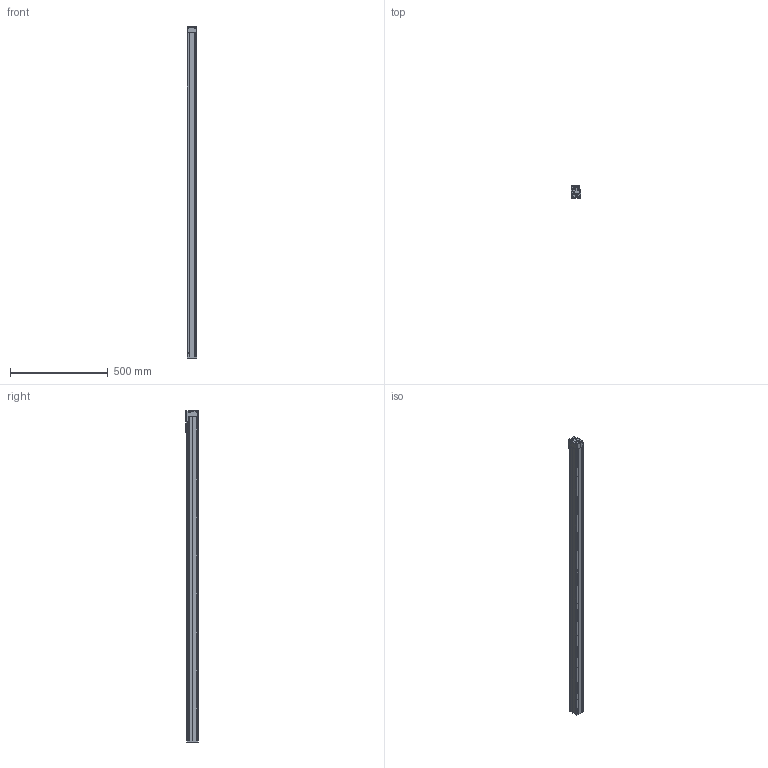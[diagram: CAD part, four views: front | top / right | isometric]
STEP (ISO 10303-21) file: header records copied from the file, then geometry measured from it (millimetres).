
FILE_DESCRIPTION(('Creo Elements/Direct Modeling STEP Export'),'2;1');
FILE_NAME('MOD-14E-F.stp','2013-07-01T10:48:54',(''),(''),'Creo Elements/Direct Modeling STEP processor for AP214 (Solid Model)','Creo Elements/Direct Modeling 17.0C 05-Feb-2011 (C) Parametric Technology GmbH','');
FILE_SCHEMA(('AUTOMOTIVE_DESIGN { 1 0 10303 214 1 1 1 1 }'));
Length unit declared in the file: millimetre
Products named in the file (2): Modulo_der_(14E).1; MOD-14E-F
Assembly tree (1 placements, depth 2):
  MOD-14E-F
    Modulo_der_(14E).1
Bounding box: 50 x 64.45 x 1701.7 mm (x, y, z)
Volume: 4311659.6 mm3; surface area: 510266.2 mm2
Topology: 1 solids, 12 shells, 745 faces, 2148 edges, 1394 vertices
Faces by surface type: plane 359, cylinder 340, cone 24, torus 18, sphere 4
Entity records: 26434 total; most frequent: CARTESIAN_POINT 6862, ORIENTED_EDGE 4292, DIRECTION 3670, EDGE_CURVE 2146, VERTEX_POINT 1394, AXIS2_PLACEMENT_3D 1227, VECTOR 1216, LINE 1216
